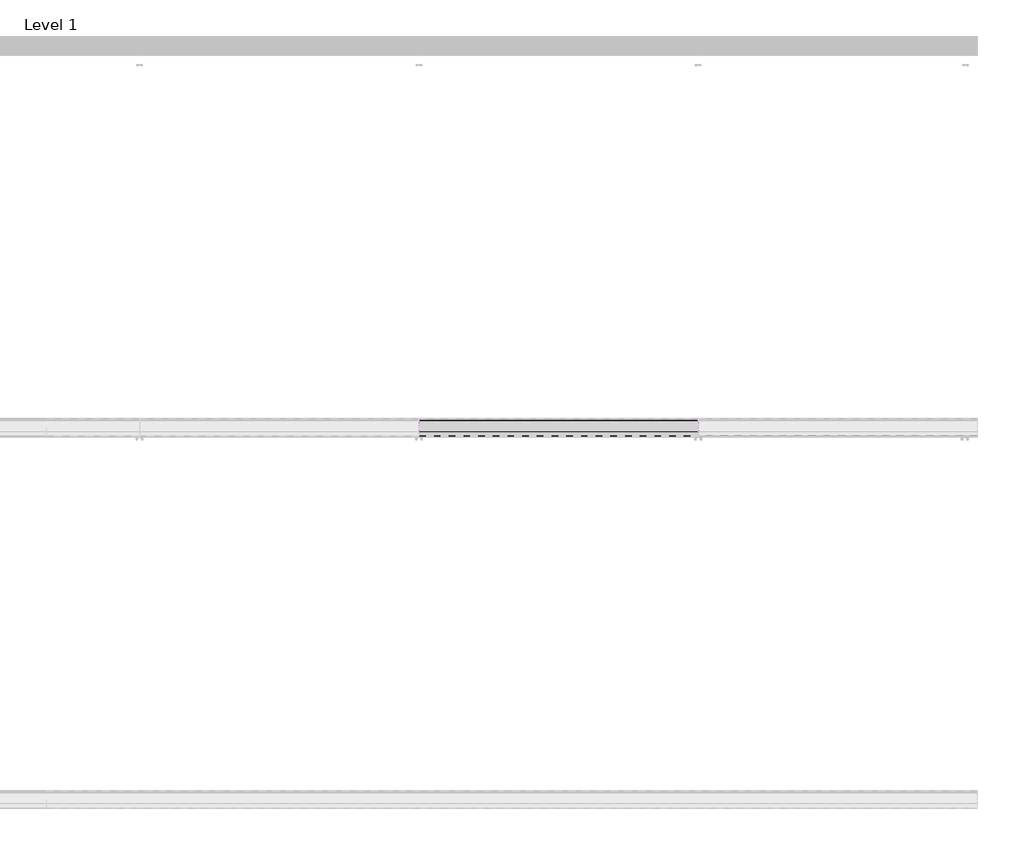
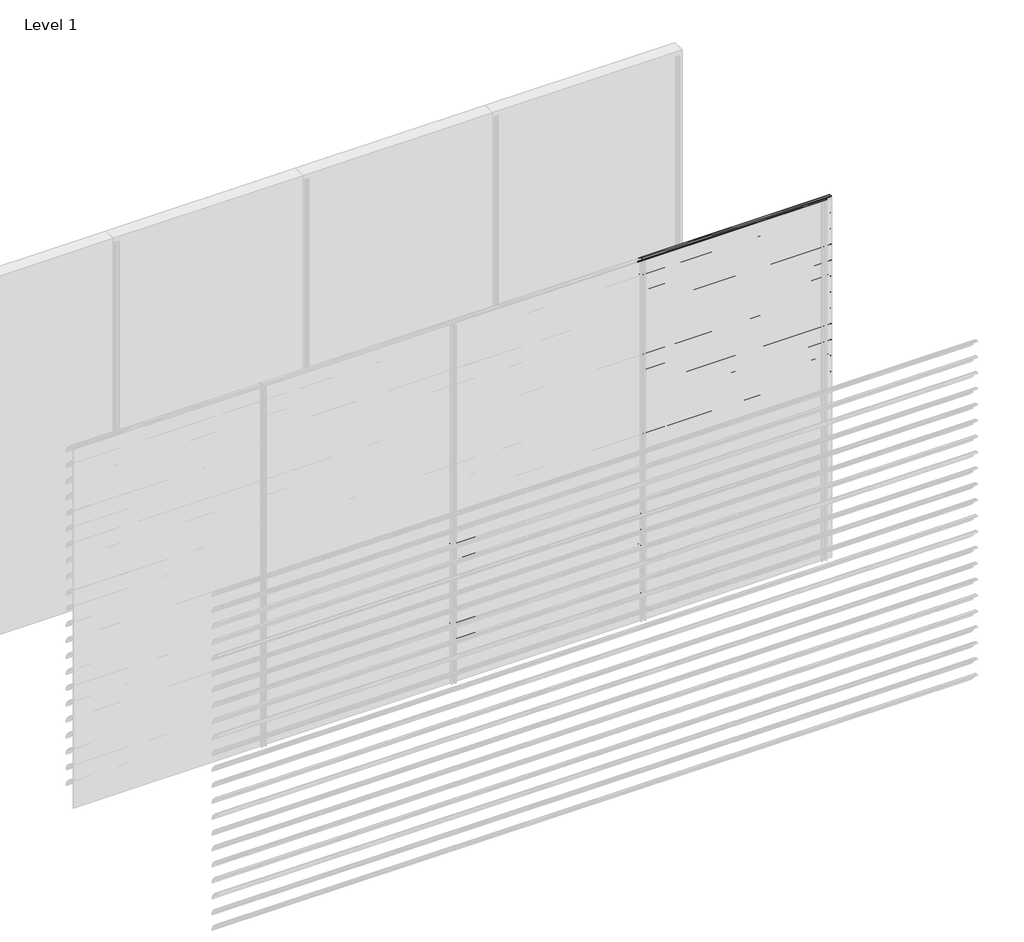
# One storey, part 51 of 57: 20 proxies.
"""IFC4 building model written with IfcOpenShell, lengths in millimetres."""

from ifc_helpers import new_model, si_unit, point, frame, frame_2d, origin, place, context, project, spatial, polyline, circle_curve, trimmed, segment, composite_curve, outline, extrude, element, save

model = new_model("IFC4")

# Units and contexts
model_context = context("Model", 3, world=origin())
ifc_project = project(units=[si_unit("LENGTHUNIT", "METRE", prefix="MILLI")], contexts=[model_context])

# Site, building, storey
site = spatial("IfcSite", under=ifc_project)
building = spatial("IfcBuilding", under=site)
storey = spatial("IfcBuildingStorey", under=building, Name="Level 1", Elevation=0.0)

# Proxies
placement = place(None, origin())
element("IfcBuildingElementProxy", 1, Name="Wall Sweeps", at=placement, inside=storey, context=model_context, shape_type="SweptSolid", body=[
    extrude(outline(composite_curve([segment(trimmed(circle_curve(frame_2d((-5993.7822526, 1154.4913792)), 4.2177474), [point((-5989.6985606, 1155.5462976))], [point((-5993.7822526, 1158.7091266))], False, "CARTESIAN"), True, "CONTINUOUS"), segment(trimmed(circle_curve(frame_2d((-6018.7150834, 1056.2536312)), 105.4456002), [point((-5993.7822526, 1158.7091266))], [point((-5971.7914298, 1150.6832099))], False, "CARTESIAN"), True, "CONTINUOUS"), segment(trimmed(circle_curve(frame_2d((-6061.7199745, 1002.0352476)), 173.7335887), [point((-5971.7914298, 1150.6832099))], [point((-5913.0720121, 1091.9637922))], False, "CARTESIAN"), True, "CONTINUOUS"), segment(trimmed(circle_curve(frame_2d((-6004.9297178, 1040.1860314)), 105.4456002), [point((-5913.0720121, 1091.9637922))], [point((-5903.6249616, 1069.4455765))], False, "CARTESIAN"), True, "CONTINUOUS"), segment(trimmed(circle_curve(frame_2d((-5907.809737, 1068.3307305)), 4.3307305), [point((-5903.6249616, 1069.4455765))], [point((-5909.0769196, 1064.189538))], False, "CARTESIAN"), True, "CONTINUOUS"), segment(polyline([(-5909.0769196, 1064.189538), (-5934.7401984, 1088.9722783)]), True, "CONTINUOUS"), segment(trimmed(circle_curve(frame_2d((-5931.3879574, 1091.2977626)), 4.079877), [point((-5934.7401984, 1088.9722783))], [point((-5930.7310597, 1095.3244091))], False, "CARTESIAN"), True, "CONTINUOUS"), segment(trimmed(circle_curve(frame_2d((-6014.6665585, 1073.2544323)), 86.7885467), [point((-5930.7310597, 1095.3244091))], [point((-5942.3028351, 1121.1683485))], True, "CARTESIAN"), True, "CONTINUOUS"), segment(polyline([(-5942.3028351, 1121.1683485), (-5940.7230099, 1123.9046861)]), True, "CONTINUOUS"), segment(trimmed(circle_curve(frame_2d((-6061.7199745, 1002.0352476)), 171.7335887), [point((-5940.7230099, 1123.9046861))], [point((-5972.7555872, 1148.9289618))], True, "CARTESIAN"), True, "CONTINUOUS"), segment(trimmed(circle_curve(frame_2d((-6018.7150834, 1056.2536312)), 103.4456002), [point((-5972.7555872, 1148.9289618))], [point((-5989.6985606, 1155.5462976))], True, "CARTESIAN"), True, "CONTINUOUS")], self_intersect=False)), frame((3000.0, 0.0, 0.0), z_axis=(1.0, 0.0, 0.0), x_axis=(0.0, 1.0, 0.0)), (0.0, 0.0, 1.0), 1500.0),
])
element("IfcBuildingElementProxy", 2, Name="Wall Sweeps", at=placement, inside=storey, context=model_context, shape_type="SweptSolid", body=[
    extrude(outline(composite_curve([segment(trimmed(circle_curve(frame_2d((-5993.7822526, 1021.4913792)), 4.2177474), [point((-5989.6985606, 1022.5462976))], [point((-5993.7822526, 1025.7091266))], False, "CARTESIAN"), True, "CONTINUOUS"), segment(trimmed(circle_curve(frame_2d((-6018.7150834, 923.2536312)), 105.4456002), [point((-5993.7822526, 1025.7091266))], [point((-5971.7914298, 1017.6832099))], False, "CARTESIAN"), True, "CONTINUOUS"), segment(trimmed(circle_curve(frame_2d((-6061.7199745, 869.0352476)), 173.7335887), [point((-5971.7914298, 1017.6832099))], [point((-5913.0720121, 958.9637922))], False, "CARTESIAN"), True, "CONTINUOUS"), segment(trimmed(circle_curve(frame_2d((-6004.9297178, 907.1860314)), 105.4456002), [point((-5913.0720121, 958.9637922))], [point((-5903.6249616, 936.4455765))], False, "CARTESIAN"), True, "CONTINUOUS"), segment(trimmed(circle_curve(frame_2d((-5907.809737, 935.3307305)), 4.3307305), [point((-5903.6249616, 936.4455765))], [point((-5909.0769196, 931.189538))], False, "CARTESIAN"), True, "CONTINUOUS"), segment(polyline([(-5909.0769196, 931.189538), (-5934.7401984, 955.9722783)]), True, "CONTINUOUS"), segment(trimmed(circle_curve(frame_2d((-5931.3879574, 958.2977626)), 4.079877), [point((-5934.7401984, 955.9722783))], [point((-5930.7310597, 962.3244091))], False, "CARTESIAN"), True, "CONTINUOUS"), segment(trimmed(circle_curve(frame_2d((-6014.6665585, 940.2544323)), 86.7885467), [point((-5930.7310597, 962.3244091))], [point((-5942.3028351, 988.1683485))], True, "CARTESIAN"), True, "CONTINUOUS"), segment(polyline([(-5942.3028351, 988.1683485), (-5940.7230099, 990.9046861)]), True, "CONTINUOUS"), segment(trimmed(circle_curve(frame_2d((-6061.7199745, 869.0352476)), 171.7335887), [point((-5940.7230099, 990.9046861))], [point((-5972.7555872, 1015.9289618))], True, "CARTESIAN"), True, "CONTINUOUS"), segment(trimmed(circle_curve(frame_2d((-6018.7150834, 923.2536312)), 103.4456002), [point((-5972.7555872, 1015.9289618))], [point((-5989.6985606, 1022.5462976))], True, "CARTESIAN"), True, "CONTINUOUS")], self_intersect=False)), frame((3000.0, 0.0, 0.0), z_axis=(1.0, 0.0, 0.0), x_axis=(0.0, 1.0, 0.0)), (0.0, 0.0, 1.0), 1500.0),
])
element("IfcBuildingElementProxy", 3, Name="Wall Sweeps", at=placement, inside=storey, context=model_context, shape_type="SweptSolid", body=[
    extrude(outline(composite_curve([segment(trimmed(circle_curve(frame_2d((-5993.7822526, 888.4913792)), 4.2177474), [point((-5989.6985606, 889.5462976))], [point((-5993.7822526, 892.7091266))], False, "CARTESIAN"), True, "CONTINUOUS"), segment(trimmed(circle_curve(frame_2d((-6018.7150834, 790.2536312)), 105.4456002), [point((-5993.7822526, 892.7091266))], [point((-5971.7914298, 884.6832099))], False, "CARTESIAN"), True, "CONTINUOUS"), segment(trimmed(circle_curve(frame_2d((-6061.7199745, 736.0352476)), 173.7335887), [point((-5971.7914298, 884.6832099))], [point((-5913.0720121, 825.9637922))], False, "CARTESIAN"), True, "CONTINUOUS"), segment(trimmed(circle_curve(frame_2d((-6004.9297178, 774.1860314)), 105.4456002), [point((-5913.0720121, 825.9637922))], [point((-5903.6249616, 803.4455765))], False, "CARTESIAN"), True, "CONTINUOUS"), segment(trimmed(circle_curve(frame_2d((-5907.809737, 802.3307305)), 4.3307305), [point((-5903.6249616, 803.4455765))], [point((-5909.0769196, 798.189538))], False, "CARTESIAN"), True, "CONTINUOUS"), segment(polyline([(-5909.0769196, 798.189538), (-5934.7401984, 822.9722783)]), True, "CONTINUOUS"), segment(trimmed(circle_curve(frame_2d((-5931.3879574, 825.2977626)), 4.079877), [point((-5934.7401984, 822.9722783))], [point((-5930.7310597, 829.3244091))], False, "CARTESIAN"), True, "CONTINUOUS"), segment(trimmed(circle_curve(frame_2d((-6014.6665585, 807.2544323)), 86.7885467), [point((-5930.7310597, 829.3244091))], [point((-5942.3028351, 855.1683485))], True, "CARTESIAN"), True, "CONTINUOUS"), segment(polyline([(-5942.3028351, 855.1683485), (-5940.7230099, 857.9046861)]), True, "CONTINUOUS"), segment(trimmed(circle_curve(frame_2d((-6061.7199745, 736.0352476)), 171.7335887), [point((-5940.7230099, 857.9046861))], [point((-5972.7555872, 882.9289618))], True, "CARTESIAN"), True, "CONTINUOUS"), segment(trimmed(circle_curve(frame_2d((-6018.7150834, 790.2536312)), 103.4456002), [point((-5972.7555872, 882.9289618))], [point((-5989.6985606, 889.5462976))], True, "CARTESIAN"), True, "CONTINUOUS")], self_intersect=False)), frame((3000.0, 0.0, 0.0), z_axis=(1.0, 0.0, 0.0), x_axis=(0.0, 1.0, 0.0)), (0.0, 0.0, 1.0), 1500.0),
])
element("IfcBuildingElementProxy", 4, Name="Wall Sweeps", at=placement, inside=storey, context=model_context, shape_type="SweptSolid", body=[
    extrude(outline(composite_curve([segment(trimmed(circle_curve(frame_2d((-5993.7822526, 755.4913792)), 4.2177474), [point((-5989.6985606, 756.5462976))], [point((-5993.7822526, 759.7091266))], False, "CARTESIAN"), True, "CONTINUOUS"), segment(trimmed(circle_curve(frame_2d((-6018.7150834, 657.2536312)), 105.4456002), [point((-5993.7822526, 759.7091266))], [point((-5971.7914298, 751.6832099))], False, "CARTESIAN"), True, "CONTINUOUS"), segment(trimmed(circle_curve(frame_2d((-6061.7199745, 603.0352476)), 173.7335887), [point((-5971.7914298, 751.6832099))], [point((-5913.0720121, 692.9637922))], False, "CARTESIAN"), True, "CONTINUOUS"), segment(trimmed(circle_curve(frame_2d((-6004.9297178, 641.1860314)), 105.4456002), [point((-5913.0720121, 692.9637922))], [point((-5903.6249616, 670.4455765))], False, "CARTESIAN"), True, "CONTINUOUS"), segment(trimmed(circle_curve(frame_2d((-5907.809737, 669.3307305)), 4.3307305), [point((-5903.6249616, 670.4455765))], [point((-5909.0769196, 665.189538))], False, "CARTESIAN"), True, "CONTINUOUS"), segment(polyline([(-5909.0769196, 665.189538), (-5934.7401984, 689.9722783)]), True, "CONTINUOUS"), segment(trimmed(circle_curve(frame_2d((-5931.3879574, 692.2977626)), 4.079877), [point((-5934.7401984, 689.9722783))], [point((-5930.7310597, 696.3244091))], False, "CARTESIAN"), True, "CONTINUOUS"), segment(trimmed(circle_curve(frame_2d((-6014.6665585, 674.2544323)), 86.7885467), [point((-5930.7310597, 696.3244091))], [point((-5942.3028351, 722.1683485))], True, "CARTESIAN"), True, "CONTINUOUS"), segment(polyline([(-5942.3028351, 722.1683485), (-5940.7230099, 724.9046861)]), True, "CONTINUOUS"), segment(trimmed(circle_curve(frame_2d((-6061.7199745, 603.0352476)), 171.7335887), [point((-5940.7230099, 724.9046861))], [point((-5972.7555872, 749.9289618))], True, "CARTESIAN"), True, "CONTINUOUS"), segment(trimmed(circle_curve(frame_2d((-6018.7150834, 657.2536312)), 103.4456002), [point((-5972.7555872, 749.9289618))], [point((-5989.6985606, 756.5462976))], True, "CARTESIAN"), True, "CONTINUOUS")], self_intersect=False)), frame((3000.0, 0.0, 0.0), z_axis=(1.0, 0.0, 0.0), x_axis=(0.0, 1.0, 0.0)), (0.0, 0.0, 1.0), 1500.0),
])
element("IfcBuildingElementProxy", 5, Name="Wall Sweeps", at=placement, inside=storey, context=model_context, shape_type="SweptSolid", body=[
    extrude(outline(composite_curve([segment(trimmed(circle_curve(frame_2d((-5993.7822526, 622.4913792)), 4.2177474), [point((-5989.6985606, 623.5462976))], [point((-5993.7822526, 626.7091266))], False, "CARTESIAN"), True, "CONTINUOUS"), segment(trimmed(circle_curve(frame_2d((-6018.7150834, 524.2536312)), 105.4456002), [point((-5993.7822526, 626.7091266))], [point((-5971.7914298, 618.6832099))], False, "CARTESIAN"), True, "CONTINUOUS"), segment(trimmed(circle_curve(frame_2d((-6061.7199745, 470.0352476)), 173.7335887), [point((-5971.7914298, 618.6832099))], [point((-5913.0720121, 559.9637922))], False, "CARTESIAN"), True, "CONTINUOUS"), segment(trimmed(circle_curve(frame_2d((-6004.9297178, 508.1860314)), 105.4456002), [point((-5913.0720121, 559.9637922))], [point((-5903.6249616, 537.4455765))], False, "CARTESIAN"), True, "CONTINUOUS"), segment(trimmed(circle_curve(frame_2d((-5907.809737, 536.3307305)), 4.3307305), [point((-5903.6249616, 537.4455765))], [point((-5909.0769196, 532.189538))], False, "CARTESIAN"), True, "CONTINUOUS"), segment(polyline([(-5909.0769196, 532.189538), (-5934.7401984, 556.9722783)]), True, "CONTINUOUS"), segment(trimmed(circle_curve(frame_2d((-5931.3879574, 559.2977626)), 4.079877), [point((-5934.7401984, 556.9722783))], [point((-5930.7310597, 563.3244091))], False, "CARTESIAN"), True, "CONTINUOUS"), segment(trimmed(circle_curve(frame_2d((-6014.6665585, 541.2544323)), 86.7885467), [point((-5930.7310597, 563.3244091))], [point((-5942.3028351, 589.1683485))], True, "CARTESIAN"), True, "CONTINUOUS"), segment(polyline([(-5942.3028351, 589.1683485), (-5940.7230099, 591.9046861)]), True, "CONTINUOUS"), segment(trimmed(circle_curve(frame_2d((-6061.7199745, 470.0352476)), 171.7335887), [point((-5940.7230099, 591.9046861))], [point((-5972.7555872, 616.9289618))], True, "CARTESIAN"), True, "CONTINUOUS"), segment(trimmed(circle_curve(frame_2d((-6018.7150834, 524.2536312)), 103.4456002), [point((-5972.7555872, 616.9289618))], [point((-5989.6985606, 623.5462976))], True, "CARTESIAN"), True, "CONTINUOUS")], self_intersect=False)), frame((3000.0, 0.0, 0.0), z_axis=(1.0, 0.0, 0.0), x_axis=(0.0, 1.0, 0.0)), (0.0, 0.0, 1.0), 1500.0),
])
element("IfcBuildingElementProxy", 6, Name="Wall Sweeps", at=placement, inside=storey, context=model_context, shape_type="SweptSolid", body=[
    extrude(outline(composite_curve([segment(trimmed(circle_curve(frame_2d((-5993.7822526, 489.4913792)), 4.2177474), [point((-5989.6985606, 490.5462976))], [point((-5993.7822526, 493.7091266))], False, "CARTESIAN"), True, "CONTINUOUS"), segment(trimmed(circle_curve(frame_2d((-6018.7150834, 391.2536312)), 105.4456002), [point((-5993.7822526, 493.7091266))], [point((-5971.7914298, 485.6832099))], False, "CARTESIAN"), True, "CONTINUOUS"), segment(trimmed(circle_curve(frame_2d((-6061.7199745, 337.0352476)), 173.7335887), [point((-5971.7914298, 485.6832099))], [point((-5913.0720121, 426.9637922))], False, "CARTESIAN"), True, "CONTINUOUS"), segment(trimmed(circle_curve(frame_2d((-6004.9297178, 375.1860314)), 105.4456002), [point((-5913.0720121, 426.9637922))], [point((-5903.6249616, 404.4455765))], False, "CARTESIAN"), True, "CONTINUOUS"), segment(trimmed(circle_curve(frame_2d((-5907.809737, 403.3307305)), 4.3307305), [point((-5903.6249616, 404.4455765))], [point((-5909.0769196, 399.189538))], False, "CARTESIAN"), True, "CONTINUOUS"), segment(polyline([(-5909.0769196, 399.189538), (-5934.7401984, 423.9722783)]), True, "CONTINUOUS"), segment(trimmed(circle_curve(frame_2d((-5931.3879574, 426.2977626)), 4.079877), [point((-5934.7401984, 423.9722783))], [point((-5930.7310597, 430.3244091))], False, "CARTESIAN"), True, "CONTINUOUS"), segment(trimmed(circle_curve(frame_2d((-6014.6665585, 408.2544323)), 86.7885467), [point((-5930.7310597, 430.3244091))], [point((-5942.3028351, 456.1683485))], True, "CARTESIAN"), True, "CONTINUOUS"), segment(polyline([(-5942.3028351, 456.1683485), (-5940.7230099, 458.9046861)]), True, "CONTINUOUS"), segment(trimmed(circle_curve(frame_2d((-6061.7199745, 337.0352476)), 171.7335887), [point((-5940.7230099, 458.9046861))], [point((-5972.7555872, 483.9289618))], True, "CARTESIAN"), True, "CONTINUOUS"), segment(trimmed(circle_curve(frame_2d((-6018.7150834, 391.2536312)), 103.4456002), [point((-5972.7555872, 483.9289618))], [point((-5989.6985606, 490.5462976))], True, "CARTESIAN"), True, "CONTINUOUS")], self_intersect=False)), frame((3000.0, 0.0, 0.0), z_axis=(1.0, 0.0, 0.0), x_axis=(0.0, 1.0, 0.0)), (0.0, 0.0, 1.0), 1500.0),
])
element("IfcBuildingElementProxy", 7, Name="Wall Sweeps", at=placement, inside=storey, context=model_context, shape_type="SweptSolid", body=[
    extrude(outline(composite_curve([segment(trimmed(circle_curve(frame_2d((-5993.7822526, 356.4913792)), 4.2177474), [point((-5989.6985606, 357.5462976))], [point((-5993.7822526, 360.7091266))], False, "CARTESIAN"), True, "CONTINUOUS"), segment(trimmed(circle_curve(frame_2d((-6018.7150834, 258.2536312)), 105.4456002), [point((-5993.7822526, 360.7091266))], [point((-5971.7914298, 352.6832099))], False, "CARTESIAN"), True, "CONTINUOUS"), segment(trimmed(circle_curve(frame_2d((-6061.7199745, 204.0352476)), 173.7335887), [point((-5971.7914298, 352.6832099))], [point((-5913.0720121, 293.9637922))], False, "CARTESIAN"), True, "CONTINUOUS"), segment(trimmed(circle_curve(frame_2d((-6004.9297178, 242.1860314)), 105.4456002), [point((-5913.0720121, 293.9637922))], [point((-5903.6249616, 271.4455765))], False, "CARTESIAN"), True, "CONTINUOUS"), segment(trimmed(circle_curve(frame_2d((-5907.809737, 270.3307305)), 4.3307305), [point((-5903.6249616, 271.4455765))], [point((-5909.0769196, 266.189538))], False, "CARTESIAN"), True, "CONTINUOUS"), segment(polyline([(-5909.0769196, 266.189538), (-5934.7401984, 290.9722783)]), True, "CONTINUOUS"), segment(trimmed(circle_curve(frame_2d((-5931.3879574, 293.2977626)), 4.079877), [point((-5934.7401984, 290.9722783))], [point((-5930.7310597, 297.3244091))], False, "CARTESIAN"), True, "CONTINUOUS"), segment(trimmed(circle_curve(frame_2d((-6014.6665585, 275.2544323)), 86.7885467), [point((-5930.7310597, 297.3244091))], [point((-5942.3028351, 323.1683485))], True, "CARTESIAN"), True, "CONTINUOUS"), segment(polyline([(-5942.3028351, 323.1683485), (-5940.7230099, 325.9046861)]), True, "CONTINUOUS"), segment(trimmed(circle_curve(frame_2d((-6061.7199745, 204.0352476)), 171.7335887), [point((-5940.7230099, 325.9046861))], [point((-5972.7555872, 350.9289618))], True, "CARTESIAN"), True, "CONTINUOUS"), segment(trimmed(circle_curve(frame_2d((-6018.7150834, 258.2536312)), 103.4456002), [point((-5972.7555872, 350.9289618))], [point((-5989.6985606, 357.5462976))], True, "CARTESIAN"), True, "CONTINUOUS")], self_intersect=False)), frame((3000.0, 0.0, 0.0), z_axis=(1.0, 0.0, 0.0), x_axis=(0.0, 1.0, 0.0)), (0.0, 0.0, 1.0), 1500.0),
])
element("IfcBuildingElementProxy", 8, Name="Wall Sweeps", at=placement, inside=storey, context=model_context, shape_type="SweptSolid", body=[
    extrude(outline(composite_curve([segment(trimmed(circle_curve(frame_2d((-5993.7822526, 223.4913792)), 4.2177474), [point((-5989.6985606, 224.5462976))], [point((-5993.7822526, 227.7091266))], False, "CARTESIAN"), True, "CONTINUOUS"), segment(trimmed(circle_curve(frame_2d((-6018.7150834, 125.2536312)), 105.4456002), [point((-5993.7822526, 227.7091266))], [point((-5971.7914298, 219.6832099))], False, "CARTESIAN"), True, "CONTINUOUS"), segment(trimmed(circle_curve(frame_2d((-6061.7199745, 71.0352476)), 173.7335887), [point((-5971.7914298, 219.6832099))], [point((-5913.0720121, 160.9637922))], False, "CARTESIAN"), True, "CONTINUOUS"), segment(trimmed(circle_curve(frame_2d((-6004.9297178, 109.1860314)), 105.4456002), [point((-5913.0720121, 160.9637922))], [point((-5903.6249616, 138.4455765))], False, "CARTESIAN"), True, "CONTINUOUS"), segment(trimmed(circle_curve(frame_2d((-5907.809737, 137.3307305)), 4.3307305), [point((-5903.6249616, 138.4455765))], [point((-5909.0769196, 133.189538))], False, "CARTESIAN"), True, "CONTINUOUS"), segment(polyline([(-5909.0769196, 133.189538), (-5934.7401984, 157.9722783)]), True, "CONTINUOUS"), segment(trimmed(circle_curve(frame_2d((-5931.3879574, 160.2977626)), 4.079877), [point((-5934.7401984, 157.9722783))], [point((-5930.7310597, 164.3244091))], False, "CARTESIAN"), True, "CONTINUOUS"), segment(trimmed(circle_curve(frame_2d((-6014.6665585, 142.2544323)), 86.7885467), [point((-5930.7310597, 164.3244091))], [point((-5942.3028351, 190.1683485))], True, "CARTESIAN"), True, "CONTINUOUS"), segment(polyline([(-5942.3028351, 190.1683485), (-5940.7230099, 192.9046861)]), True, "CONTINUOUS"), segment(trimmed(circle_curve(frame_2d((-6061.7199745, 71.0352476)), 171.7335887), [point((-5940.7230099, 192.9046861))], [point((-5972.7555872, 217.9289618))], True, "CARTESIAN"), True, "CONTINUOUS"), segment(trimmed(circle_curve(frame_2d((-6018.7150834, 125.2536312)), 103.4456002), [point((-5972.7555872, 217.9289618))], [point((-5989.6985606, 224.5462976))], True, "CARTESIAN"), True, "CONTINUOUS")], self_intersect=False)), frame((3000.0, 0.0, 0.0), z_axis=(1.0, 0.0, 0.0), x_axis=(0.0, 1.0, 0.0)), (0.0, 0.0, 1.0), 1500.0),
])
element("IfcBuildingElementProxy", 9, Name="Wall Sweeps", at=placement, inside=storey, context=model_context, shape_type="SweptSolid", body=[
    extrude(outline(composite_curve([segment(trimmed(circle_curve(frame_2d((-5993.7822526, 3016.4913792)), 4.2177474), [point((-5989.6985606, 3017.5462976))], [point((-5993.7822526, 3020.7091266))], False, "CARTESIAN"), True, "CONTINUOUS"), segment(trimmed(circle_curve(frame_2d((-6018.7150834, 2918.2536312)), 105.4456002), [point((-5993.7822526, 3020.7091266))], [point((-5971.7914298, 3012.6832099))], False, "CARTESIAN"), True, "CONTINUOUS"), segment(trimmed(circle_curve(frame_2d((-6061.7199745, 2864.0352476)), 173.7335887), [point((-5971.7914298, 3012.6832099))], [point((-5913.0720121, 2953.9637922))], False, "CARTESIAN"), True, "CONTINUOUS"), segment(trimmed(circle_curve(frame_2d((-6004.9297178, 2902.1860314)), 105.4456002), [point((-5913.0720121, 2953.9637922))], [point((-5903.6249616, 2931.4455765))], False, "CARTESIAN"), True, "CONTINUOUS"), segment(trimmed(circle_curve(frame_2d((-5907.809737, 2930.3307305)), 4.3307305), [point((-5903.6249616, 2931.4455765))], [point((-5909.0769196, 2926.189538))], False, "CARTESIAN"), True, "CONTINUOUS"), segment(polyline([(-5909.0769196, 2926.189538), (-5934.7401984, 2950.9722783)]), True, "CONTINUOUS"), segment(trimmed(circle_curve(frame_2d((-5931.3879574, 2953.2977626)), 4.079877), [point((-5934.7401984, 2950.9722783))], [point((-5930.7310597, 2957.3244091))], False, "CARTESIAN"), True, "CONTINUOUS"), segment(trimmed(circle_curve(frame_2d((-6014.6665585, 2935.2544323)), 86.7885467), [point((-5930.7310597, 2957.3244091))], [point((-5942.3028351, 2983.1683485))], True, "CARTESIAN"), True, "CONTINUOUS"), segment(polyline([(-5942.3028351, 2983.1683485), (-5940.7230099, 2985.9046861)]), True, "CONTINUOUS"), segment(trimmed(circle_curve(frame_2d((-6061.7199745, 2864.0352476)), 171.7335887), [point((-5940.7230099, 2985.9046861))], [point((-5972.7555872, 3010.9289618))], True, "CARTESIAN"), True, "CONTINUOUS"), segment(trimmed(circle_curve(frame_2d((-6018.7150834, 2918.2536312)), 103.4456002), [point((-5972.7555872, 3010.9289618))], [point((-5989.6985606, 3017.5462976))], True, "CARTESIAN"), True, "CONTINUOUS")], self_intersect=False)), frame((4500.0, 0.0, 0.0), z_axis=(1.0, 0.0, 0.0), x_axis=(0.0, 1.0, 0.0)), (0.0, 0.0, 1.0), 1500.0),
])
element("IfcBuildingElementProxy", 10, Name="Wall Sweeps", at=placement, inside=storey, context=model_context, shape_type="SweptSolid", body=[
    extrude(outline(composite_curve([segment(trimmed(circle_curve(frame_2d((-5993.7822526, 2883.4913792)), 4.2177474), [point((-5989.6985606, 2884.5462976))], [point((-5993.7822526, 2887.7091266))], False, "CARTESIAN"), True, "CONTINUOUS"), segment(trimmed(circle_curve(frame_2d((-6018.7150834, 2785.2536312)), 105.4456002), [point((-5993.7822526, 2887.7091266))], [point((-5971.7914298, 2879.6832099))], False, "CARTESIAN"), True, "CONTINUOUS"), segment(trimmed(circle_curve(frame_2d((-6061.7199745, 2731.0352476)), 173.7335887), [point((-5971.7914298, 2879.6832099))], [point((-5913.0720121, 2820.9637922))], False, "CARTESIAN"), True, "CONTINUOUS"), segment(trimmed(circle_curve(frame_2d((-6004.9297178, 2769.1860314)), 105.4456002), [point((-5913.0720121, 2820.9637922))], [point((-5903.6249616, 2798.4455765))], False, "CARTESIAN"), True, "CONTINUOUS"), segment(trimmed(circle_curve(frame_2d((-5907.809737, 2797.3307305)), 4.3307305), [point((-5903.6249616, 2798.4455765))], [point((-5909.0769196, 2793.189538))], False, "CARTESIAN"), True, "CONTINUOUS"), segment(polyline([(-5909.0769196, 2793.189538), (-5934.7401984, 2817.9722783)]), True, "CONTINUOUS"), segment(trimmed(circle_curve(frame_2d((-5931.3879574, 2820.2977626)), 4.079877), [point((-5934.7401984, 2817.9722783))], [point((-5930.7310597, 2824.3244091))], False, "CARTESIAN"), True, "CONTINUOUS"), segment(trimmed(circle_curve(frame_2d((-6014.6665585, 2802.2544323)), 86.7885467), [point((-5930.7310597, 2824.3244091))], [point((-5942.3028351, 2850.1683485))], True, "CARTESIAN"), True, "CONTINUOUS"), segment(polyline([(-5942.3028351, 2850.1683485), (-5940.7230099, 2852.9046861)]), True, "CONTINUOUS"), segment(trimmed(circle_curve(frame_2d((-6061.7199745, 2731.0352476)), 171.7335887), [point((-5940.7230099, 2852.9046861))], [point((-5972.7555872, 2877.9289618))], True, "CARTESIAN"), True, "CONTINUOUS"), segment(trimmed(circle_curve(frame_2d((-6018.7150834, 2785.2536312)), 103.4456002), [point((-5972.7555872, 2877.9289618))], [point((-5989.6985606, 2884.5462976))], True, "CARTESIAN"), True, "CONTINUOUS")], self_intersect=False)), frame((4500.0, 0.0, 0.0), z_axis=(1.0, 0.0, 0.0), x_axis=(0.0, 1.0, 0.0)), (0.0, 0.0, 1.0), 1500.0),
])
element("IfcBuildingElementProxy", 11, Name="Wall Sweeps", at=placement, inside=storey, context=model_context, shape_type="SweptSolid", body=[
    extrude(outline(composite_curve([segment(trimmed(circle_curve(frame_2d((-5993.7822526, 2750.4913792)), 4.2177474), [point((-5989.6985606, 2751.5462976))], [point((-5993.7822526, 2754.7091266))], False, "CARTESIAN"), True, "CONTINUOUS"), segment(trimmed(circle_curve(frame_2d((-6018.7150834, 2652.2536312)), 105.4456002), [point((-5993.7822526, 2754.7091266))], [point((-5971.7914298, 2746.6832099))], False, "CARTESIAN"), True, "CONTINUOUS"), segment(trimmed(circle_curve(frame_2d((-6061.7199745, 2598.0352476)), 173.7335887), [point((-5971.7914298, 2746.6832099))], [point((-5913.0720121, 2687.9637922))], False, "CARTESIAN"), True, "CONTINUOUS"), segment(trimmed(circle_curve(frame_2d((-6004.9297178, 2636.1860314)), 105.4456002), [point((-5913.0720121, 2687.9637922))], [point((-5903.6249616, 2665.4455765))], False, "CARTESIAN"), True, "CONTINUOUS"), segment(trimmed(circle_curve(frame_2d((-5907.809737, 2664.3307305)), 4.3307305), [point((-5903.6249616, 2665.4455765))], [point((-5909.0769196, 2660.189538))], False, "CARTESIAN"), True, "CONTINUOUS"), segment(polyline([(-5909.0769196, 2660.189538), (-5934.7401984, 2684.9722783)]), True, "CONTINUOUS"), segment(trimmed(circle_curve(frame_2d((-5931.3879574, 2687.2977626)), 4.079877), [point((-5934.7401984, 2684.9722783))], [point((-5930.7310597, 2691.3244091))], False, "CARTESIAN"), True, "CONTINUOUS"), segment(trimmed(circle_curve(frame_2d((-6014.6665585, 2669.2544323)), 86.7885467), [point((-5930.7310597, 2691.3244091))], [point((-5942.3028351, 2717.1683485))], True, "CARTESIAN"), True, "CONTINUOUS"), segment(polyline([(-5942.3028351, 2717.1683485), (-5940.7230099, 2719.9046861)]), True, "CONTINUOUS"), segment(trimmed(circle_curve(frame_2d((-6061.7199745, 2598.0352476)), 171.7335887), [point((-5940.7230099, 2719.9046861))], [point((-5972.7555872, 2744.9289618))], True, "CARTESIAN"), True, "CONTINUOUS"), segment(trimmed(circle_curve(frame_2d((-6018.7150834, 2652.2536312)), 103.4456002), [point((-5972.7555872, 2744.9289618))], [point((-5989.6985606, 2751.5462976))], True, "CARTESIAN"), True, "CONTINUOUS")], self_intersect=False)), frame((4500.0, 0.0, 0.0), z_axis=(1.0, 0.0, 0.0), x_axis=(0.0, 1.0, 0.0)), (0.0, 0.0, 1.0), 1500.0),
])
element("IfcBuildingElementProxy", 12, Name="Wall Sweeps", at=placement, inside=storey, context=model_context, shape_type="SweptSolid", body=[
    extrude(outline(composite_curve([segment(trimmed(circle_curve(frame_2d((-5993.7822526, 2617.4913792)), 4.2177474), [point((-5989.6985606, 2618.5462976))], [point((-5993.7822526, 2621.7091266))], False, "CARTESIAN"), True, "CONTINUOUS"), segment(trimmed(circle_curve(frame_2d((-6018.7150834, 2519.2536312)), 105.4456002), [point((-5993.7822526, 2621.7091266))], [point((-5971.7914298, 2613.6832099))], False, "CARTESIAN"), True, "CONTINUOUS"), segment(trimmed(circle_curve(frame_2d((-6061.7199745, 2465.0352476)), 173.7335887), [point((-5971.7914298, 2613.6832099))], [point((-5913.0720121, 2554.9637922))], False, "CARTESIAN"), True, "CONTINUOUS"), segment(trimmed(circle_curve(frame_2d((-6004.9297178, 2503.1860314)), 105.4456002), [point((-5913.0720121, 2554.9637922))], [point((-5903.6249616, 2532.4455765))], False, "CARTESIAN"), True, "CONTINUOUS"), segment(trimmed(circle_curve(frame_2d((-5907.809737, 2531.3307305)), 4.3307305), [point((-5903.6249616, 2532.4455765))], [point((-5909.0769196, 2527.189538))], False, "CARTESIAN"), True, "CONTINUOUS"), segment(polyline([(-5909.0769196, 2527.189538), (-5934.7401984, 2551.9722783)]), True, "CONTINUOUS"), segment(trimmed(circle_curve(frame_2d((-5931.3879574, 2554.2977626)), 4.079877), [point((-5934.7401984, 2551.9722783))], [point((-5930.7310597, 2558.3244091))], False, "CARTESIAN"), True, "CONTINUOUS"), segment(trimmed(circle_curve(frame_2d((-6014.6665585, 2536.2544323)), 86.7885467), [point((-5930.7310597, 2558.3244091))], [point((-5942.3028351, 2584.1683485))], True, "CARTESIAN"), True, "CONTINUOUS"), segment(polyline([(-5942.3028351, 2584.1683485), (-5940.7230099, 2586.9046861)]), True, "CONTINUOUS"), segment(trimmed(circle_curve(frame_2d((-6061.7199745, 2465.0352476)), 171.7335887), [point((-5940.7230099, 2586.9046861))], [point((-5972.7555872, 2611.9289618))], True, "CARTESIAN"), True, "CONTINUOUS"), segment(trimmed(circle_curve(frame_2d((-6018.7150834, 2519.2536312)), 103.4456002), [point((-5972.7555872, 2611.9289618))], [point((-5989.6985606, 2618.5462976))], True, "CARTESIAN"), True, "CONTINUOUS")], self_intersect=False)), frame((4500.0, 0.0, 0.0), z_axis=(1.0, 0.0, 0.0), x_axis=(0.0, 1.0, 0.0)), (0.0, 0.0, 1.0), 1500.0),
])
element("IfcBuildingElementProxy", 13, Name="Wall Sweeps", at=placement, inside=storey, context=model_context, shape_type="SweptSolid", body=[
    extrude(outline(composite_curve([segment(trimmed(circle_curve(frame_2d((-5993.7822526, 2484.4913792)), 4.2177474), [point((-5989.6985606, 2485.5462976))], [point((-5993.7822526, 2488.7091266))], False, "CARTESIAN"), True, "CONTINUOUS"), segment(trimmed(circle_curve(frame_2d((-6018.7150834, 2386.2536312)), 105.4456002), [point((-5993.7822526, 2488.7091266))], [point((-5971.7914298, 2480.6832099))], False, "CARTESIAN"), True, "CONTINUOUS"), segment(trimmed(circle_curve(frame_2d((-6061.7199745, 2332.0352476)), 173.7335887), [point((-5971.7914298, 2480.6832099))], [point((-5913.0720121, 2421.9637922))], False, "CARTESIAN"), True, "CONTINUOUS"), segment(trimmed(circle_curve(frame_2d((-6004.9297178, 2370.1860314)), 105.4456002), [point((-5913.0720121, 2421.9637922))], [point((-5903.6249616, 2399.4455765))], False, "CARTESIAN"), True, "CONTINUOUS"), segment(trimmed(circle_curve(frame_2d((-5907.809737, 2398.3307305)), 4.3307305), [point((-5903.6249616, 2399.4455765))], [point((-5909.0769196, 2394.189538))], False, "CARTESIAN"), True, "CONTINUOUS"), segment(polyline([(-5909.0769196, 2394.189538), (-5934.7401984, 2418.9722783)]), True, "CONTINUOUS"), segment(trimmed(circle_curve(frame_2d((-5931.3879574, 2421.2977626)), 4.079877), [point((-5934.7401984, 2418.9722783))], [point((-5930.7310597, 2425.3244091))], False, "CARTESIAN"), True, "CONTINUOUS"), segment(trimmed(circle_curve(frame_2d((-6014.6665585, 2403.2544323)), 86.7885467), [point((-5930.7310597, 2425.3244091))], [point((-5942.3028351, 2451.1683485))], True, "CARTESIAN"), True, "CONTINUOUS"), segment(polyline([(-5942.3028351, 2451.1683485), (-5940.7230099, 2453.9046861)]), True, "CONTINUOUS"), segment(trimmed(circle_curve(frame_2d((-6061.7199745, 2332.0352476)), 171.7335887), [point((-5940.7230099, 2453.9046861))], [point((-5972.7555872, 2478.9289618))], True, "CARTESIAN"), True, "CONTINUOUS"), segment(trimmed(circle_curve(frame_2d((-6018.7150834, 2386.2536312)), 103.4456002), [point((-5972.7555872, 2478.9289618))], [point((-5989.6985606, 2485.5462976))], True, "CARTESIAN"), True, "CONTINUOUS")], self_intersect=False)), frame((4500.0, 0.0, 0.0), z_axis=(1.0, 0.0, 0.0), x_axis=(0.0, 1.0, 0.0)), (0.0, 0.0, 1.0), 1500.0),
])
element("IfcBuildingElementProxy", 14, Name="Wall Sweeps", at=placement, inside=storey, context=model_context, shape_type="SweptSolid", body=[
    extrude(outline(composite_curve([segment(trimmed(circle_curve(frame_2d((-5993.7822526, 2351.4913792)), 4.2177474), [point((-5989.6985606, 2352.5462976))], [point((-5993.7822526, 2355.7091266))], False, "CARTESIAN"), True, "CONTINUOUS"), segment(trimmed(circle_curve(frame_2d((-6018.7150834, 2253.2536312)), 105.4456002), [point((-5993.7822526, 2355.7091266))], [point((-5971.7914298, 2347.6832099))], False, "CARTESIAN"), True, "CONTINUOUS"), segment(trimmed(circle_curve(frame_2d((-6061.7199745, 2199.0352476)), 173.7335887), [point((-5971.7914298, 2347.6832099))], [point((-5913.0720121, 2288.9637922))], False, "CARTESIAN"), True, "CONTINUOUS"), segment(trimmed(circle_curve(frame_2d((-6004.9297178, 2237.1860314)), 105.4456002), [point((-5913.0720121, 2288.9637922))], [point((-5903.6249616, 2266.4455765))], False, "CARTESIAN"), True, "CONTINUOUS"), segment(trimmed(circle_curve(frame_2d((-5907.809737, 2265.3307305)), 4.3307305), [point((-5903.6249616, 2266.4455765))], [point((-5909.0769196, 2261.189538))], False, "CARTESIAN"), True, "CONTINUOUS"), segment(polyline([(-5909.0769196, 2261.189538), (-5934.7401984, 2285.9722783)]), True, "CONTINUOUS"), segment(trimmed(circle_curve(frame_2d((-5931.3879574, 2288.2977626)), 4.079877), [point((-5934.7401984, 2285.9722783))], [point((-5930.7310597, 2292.3244091))], False, "CARTESIAN"), True, "CONTINUOUS"), segment(trimmed(circle_curve(frame_2d((-6014.6665585, 2270.2544323)), 86.7885467), [point((-5930.7310597, 2292.3244091))], [point((-5942.3028351, 2318.1683485))], True, "CARTESIAN"), True, "CONTINUOUS"), segment(polyline([(-5942.3028351, 2318.1683485), (-5940.7230099, 2320.9046861)]), True, "CONTINUOUS"), segment(trimmed(circle_curve(frame_2d((-6061.7199745, 2199.0352476)), 171.7335887), [point((-5940.7230099, 2320.9046861))], [point((-5972.7555872, 2345.9289618))], True, "CARTESIAN"), True, "CONTINUOUS"), segment(trimmed(circle_curve(frame_2d((-6018.7150834, 2253.2536312)), 103.4456002), [point((-5972.7555872, 2345.9289618))], [point((-5989.6985606, 2352.5462976))], True, "CARTESIAN"), True, "CONTINUOUS")], self_intersect=False)), frame((4500.0, 0.0, 0.0), z_axis=(1.0, 0.0, 0.0), x_axis=(0.0, 1.0, 0.0)), (0.0, 0.0, 1.0), 1500.0),
])
element("IfcBuildingElementProxy", 15, Name="Wall Sweeps", at=placement, inside=storey, context=model_context, shape_type="SweptSolid", body=[
    extrude(outline(composite_curve([segment(trimmed(circle_curve(frame_2d((-5993.7822526, 2218.4913792)), 4.2177474), [point((-5989.6985606, 2219.5462976))], [point((-5993.7822526, 2222.7091266))], False, "CARTESIAN"), True, "CONTINUOUS"), segment(trimmed(circle_curve(frame_2d((-6018.7150834, 2120.2536312)), 105.4456002), [point((-5993.7822526, 2222.7091266))], [point((-5971.7914298, 2214.6832099))], False, "CARTESIAN"), True, "CONTINUOUS"), segment(trimmed(circle_curve(frame_2d((-6061.7199745, 2066.0352476)), 173.7335887), [point((-5971.7914298, 2214.6832099))], [point((-5913.0720121, 2155.9637922))], False, "CARTESIAN"), True, "CONTINUOUS"), segment(trimmed(circle_curve(frame_2d((-6004.9297178, 2104.1860314)), 105.4456002), [point((-5913.0720121, 2155.9637922))], [point((-5903.6249616, 2133.4455765))], False, "CARTESIAN"), True, "CONTINUOUS"), segment(trimmed(circle_curve(frame_2d((-5907.809737, 2132.3307305)), 4.3307305), [point((-5903.6249616, 2133.4455765))], [point((-5909.0769196, 2128.189538))], False, "CARTESIAN"), True, "CONTINUOUS"), segment(polyline([(-5909.0769196, 2128.189538), (-5934.7401984, 2152.9722783)]), True, "CONTINUOUS"), segment(trimmed(circle_curve(frame_2d((-5931.3879574, 2155.2977626)), 4.079877), [point((-5934.7401984, 2152.9722783))], [point((-5930.7310597, 2159.3244091))], False, "CARTESIAN"), True, "CONTINUOUS"), segment(trimmed(circle_curve(frame_2d((-6014.6665585, 2137.2544323)), 86.7885467), [point((-5930.7310597, 2159.3244091))], [point((-5942.3028351, 2185.1683485))], True, "CARTESIAN"), True, "CONTINUOUS"), segment(polyline([(-5942.3028351, 2185.1683485), (-5940.7230099, 2187.9046861)]), True, "CONTINUOUS"), segment(trimmed(circle_curve(frame_2d((-6061.7199745, 2066.0352476)), 171.7335887), [point((-5940.7230099, 2187.9046861))], [point((-5972.7555872, 2212.9289618))], True, "CARTESIAN"), True, "CONTINUOUS"), segment(trimmed(circle_curve(frame_2d((-6018.7150834, 2120.2536312)), 103.4456002), [point((-5972.7555872, 2212.9289618))], [point((-5989.6985606, 2219.5462976))], True, "CARTESIAN"), True, "CONTINUOUS")], self_intersect=False)), frame((4500.0, 0.0, 0.0), z_axis=(1.0, 0.0, 0.0), x_axis=(0.0, 1.0, 0.0)), (0.0, 0.0, 1.0), 1500.0),
])
element("IfcBuildingElementProxy", 16, Name="Wall Sweeps", at=placement, inside=storey, context=model_context, shape_type="SweptSolid", body=[
    extrude(outline(composite_curve([segment(trimmed(circle_curve(frame_2d((-5993.7822526, 2085.4913792)), 4.2177474), [point((-5989.6985606, 2086.5462976))], [point((-5993.7822526, 2089.7091266))], False, "CARTESIAN"), True, "CONTINUOUS"), segment(trimmed(circle_curve(frame_2d((-6018.7150834, 1987.2536312)), 105.4456002), [point((-5993.7822526, 2089.7091266))], [point((-5971.7914298, 2081.6832099))], False, "CARTESIAN"), True, "CONTINUOUS"), segment(trimmed(circle_curve(frame_2d((-6061.7199745, 1933.0352476)), 173.7335887), [point((-5971.7914298, 2081.6832099))], [point((-5913.0720121, 2022.9637922))], False, "CARTESIAN"), True, "CONTINUOUS"), segment(trimmed(circle_curve(frame_2d((-6004.9297178, 1971.1860314)), 105.4456002), [point((-5913.0720121, 2022.9637922))], [point((-5903.6249616, 2000.4455765))], False, "CARTESIAN"), True, "CONTINUOUS"), segment(trimmed(circle_curve(frame_2d((-5907.809737, 1999.3307305)), 4.3307305), [point((-5903.6249616, 2000.4455765))], [point((-5909.0769196, 1995.189538))], False, "CARTESIAN"), True, "CONTINUOUS"), segment(polyline([(-5909.0769196, 1995.189538), (-5934.7401984, 2019.9722783)]), True, "CONTINUOUS"), segment(trimmed(circle_curve(frame_2d((-5931.3879574, 2022.2977626)), 4.079877), [point((-5934.7401984, 2019.9722783))], [point((-5930.7310597, 2026.3244091))], False, "CARTESIAN"), True, "CONTINUOUS"), segment(trimmed(circle_curve(frame_2d((-6014.6665585, 2004.2544323)), 86.7885467), [point((-5930.7310597, 2026.3244091))], [point((-5942.3028351, 2052.1683485))], True, "CARTESIAN"), True, "CONTINUOUS"), segment(polyline([(-5942.3028351, 2052.1683485), (-5940.7230099, 2054.9046861)]), True, "CONTINUOUS"), segment(trimmed(circle_curve(frame_2d((-6061.7199745, 1933.0352476)), 171.7335887), [point((-5940.7230099, 2054.9046861))], [point((-5972.7555872, 2079.9289618))], True, "CARTESIAN"), True, "CONTINUOUS"), segment(trimmed(circle_curve(frame_2d((-6018.7150834, 1987.2536312)), 103.4456002), [point((-5972.7555872, 2079.9289618))], [point((-5989.6985606, 2086.5462976))], True, "CARTESIAN"), True, "CONTINUOUS")], self_intersect=False)), frame((4500.0, 0.0, 0.0), z_axis=(1.0, 0.0, 0.0), x_axis=(0.0, 1.0, 0.0)), (0.0, 0.0, 1.0), 1500.0),
])
element("IfcBuildingElementProxy", 17, Name="Wall Sweeps", at=placement, inside=storey, context=model_context, shape_type="SweptSolid", body=[
    extrude(outline(composite_curve([segment(trimmed(circle_curve(frame_2d((-5993.7822526, 1952.4913792)), 4.2177474), [point((-5989.6985606, 1953.5462976))], [point((-5993.7822526, 1956.7091266))], False, "CARTESIAN"), True, "CONTINUOUS"), segment(trimmed(circle_curve(frame_2d((-6018.7150834, 1854.2536312)), 105.4456002), [point((-5993.7822526, 1956.7091266))], [point((-5971.7914298, 1948.6832099))], False, "CARTESIAN"), True, "CONTINUOUS"), segment(trimmed(circle_curve(frame_2d((-6061.7199745, 1800.0352476)), 173.7335887), [point((-5971.7914298, 1948.6832099))], [point((-5913.0720121, 1889.9637922))], False, "CARTESIAN"), True, "CONTINUOUS"), segment(trimmed(circle_curve(frame_2d((-6004.9297178, 1838.1860314)), 105.4456002), [point((-5913.0720121, 1889.9637922))], [point((-5903.6249616, 1867.4455765))], False, "CARTESIAN"), True, "CONTINUOUS"), segment(trimmed(circle_curve(frame_2d((-5907.809737, 1866.3307305)), 4.3307305), [point((-5903.6249616, 1867.4455765))], [point((-5909.0769196, 1862.189538))], False, "CARTESIAN"), True, "CONTINUOUS"), segment(polyline([(-5909.0769196, 1862.189538), (-5934.7401984, 1886.9722783)]), True, "CONTINUOUS"), segment(trimmed(circle_curve(frame_2d((-5931.3879574, 1889.2977626)), 4.079877), [point((-5934.7401984, 1886.9722783))], [point((-5930.7310597, 1893.3244091))], False, "CARTESIAN"), True, "CONTINUOUS"), segment(trimmed(circle_curve(frame_2d((-6014.6665585, 1871.2544323)), 86.7885467), [point((-5930.7310597, 1893.3244091))], [point((-5942.3028351, 1919.1683485))], True, "CARTESIAN"), True, "CONTINUOUS"), segment(polyline([(-5942.3028351, 1919.1683485), (-5940.7230099, 1921.9046861)]), True, "CONTINUOUS"), segment(trimmed(circle_curve(frame_2d((-6061.7199745, 1800.0352476)), 171.7335887), [point((-5940.7230099, 1921.9046861))], [point((-5972.7555872, 1946.9289618))], True, "CARTESIAN"), True, "CONTINUOUS"), segment(trimmed(circle_curve(frame_2d((-6018.7150834, 1854.2536312)), 103.4456002), [point((-5972.7555872, 1946.9289618))], [point((-5989.6985606, 1953.5462976))], True, "CARTESIAN"), True, "CONTINUOUS")], self_intersect=False)), frame((4500.0, 0.0, 0.0), z_axis=(1.0, 0.0, 0.0), x_axis=(0.0, 1.0, 0.0)), (0.0, 0.0, 1.0), 1500.0),
])
element("IfcBuildingElementProxy", 18, Name="Wall Sweeps", at=placement, inside=storey, context=model_context, shape_type="SweptSolid", body=[
    extrude(outline(composite_curve([segment(trimmed(circle_curve(frame_2d((-5993.7822526, 1819.4913792)), 4.2177474), [point((-5989.6985606, 1820.5462976))], [point((-5993.7822526, 1823.7091266))], False, "CARTESIAN"), True, "CONTINUOUS"), segment(trimmed(circle_curve(frame_2d((-6018.7150834, 1721.2536312)), 105.4456002), [point((-5993.7822526, 1823.7091266))], [point((-5971.7914298, 1815.6832099))], False, "CARTESIAN"), True, "CONTINUOUS"), segment(trimmed(circle_curve(frame_2d((-6061.7199745, 1667.0352476)), 173.7335887), [point((-5971.7914298, 1815.6832099))], [point((-5913.0720121, 1756.9637922))], False, "CARTESIAN"), True, "CONTINUOUS"), segment(trimmed(circle_curve(frame_2d((-6004.9297178, 1705.1860314)), 105.4456002), [point((-5913.0720121, 1756.9637922))], [point((-5903.6249616, 1734.4455765))], False, "CARTESIAN"), True, "CONTINUOUS"), segment(trimmed(circle_curve(frame_2d((-5907.809737, 1733.3307305)), 4.3307305), [point((-5903.6249616, 1734.4455765))], [point((-5909.0769196, 1729.189538))], False, "CARTESIAN"), True, "CONTINUOUS"), segment(polyline([(-5909.0769196, 1729.189538), (-5934.7401984, 1753.9722783)]), True, "CONTINUOUS"), segment(trimmed(circle_curve(frame_2d((-5931.3879574, 1756.2977626)), 4.079877), [point((-5934.7401984, 1753.9722783))], [point((-5930.7310597, 1760.3244091))], False, "CARTESIAN"), True, "CONTINUOUS"), segment(trimmed(circle_curve(frame_2d((-6014.6665585, 1738.2544323)), 86.7885467), [point((-5930.7310597, 1760.3244091))], [point((-5942.3028351, 1786.1683485))], True, "CARTESIAN"), True, "CONTINUOUS"), segment(polyline([(-5942.3028351, 1786.1683485), (-5940.7230099, 1788.9046861)]), True, "CONTINUOUS"), segment(trimmed(circle_curve(frame_2d((-6061.7199745, 1667.0352476)), 171.7335887), [point((-5940.7230099, 1788.9046861))], [point((-5972.7555872, 1813.9289618))], True, "CARTESIAN"), True, "CONTINUOUS"), segment(trimmed(circle_curve(frame_2d((-6018.7150834, 1721.2536312)), 103.4456002), [point((-5972.7555872, 1813.9289618))], [point((-5989.6985606, 1820.5462976))], True, "CARTESIAN"), True, "CONTINUOUS")], self_intersect=False)), frame((4500.0, 0.0, 0.0), z_axis=(1.0, 0.0, 0.0), x_axis=(0.0, 1.0, 0.0)), (0.0, 0.0, 1.0), 1500.0),
])
element("IfcBuildingElementProxy", 19, Name="Wall Sweeps", at=placement, inside=storey, context=model_context, shape_type="SweptSolid", body=[
    extrude(outline(composite_curve([segment(trimmed(circle_curve(frame_2d((-5993.7822526, 1686.4913792)), 4.2177474), [point((-5989.6985606, 1687.5462976))], [point((-5993.7822526, 1690.7091266))], False, "CARTESIAN"), True, "CONTINUOUS"), segment(trimmed(circle_curve(frame_2d((-6018.7150834, 1588.2536312)), 105.4456002), [point((-5993.7822526, 1690.7091266))], [point((-5971.7914298, 1682.6832099))], False, "CARTESIAN"), True, "CONTINUOUS"), segment(trimmed(circle_curve(frame_2d((-6061.7199745, 1534.0352476)), 173.7335887), [point((-5971.7914298, 1682.6832099))], [point((-5913.0720121, 1623.9637922))], False, "CARTESIAN"), True, "CONTINUOUS"), segment(trimmed(circle_curve(frame_2d((-6004.9297178, 1572.1860314)), 105.4456002), [point((-5913.0720121, 1623.9637922))], [point((-5903.6249616, 1601.4455765))], False, "CARTESIAN"), True, "CONTINUOUS"), segment(trimmed(circle_curve(frame_2d((-5907.809737, 1600.3307305)), 4.3307305), [point((-5903.6249616, 1601.4455765))], [point((-5909.0769196, 1596.189538))], False, "CARTESIAN"), True, "CONTINUOUS"), segment(polyline([(-5909.0769196, 1596.189538), (-5934.7401984, 1620.9722783)]), True, "CONTINUOUS"), segment(trimmed(circle_curve(frame_2d((-5931.3879574, 1623.2977626)), 4.079877), [point((-5934.7401984, 1620.9722783))], [point((-5930.7310597, 1627.3244091))], False, "CARTESIAN"), True, "CONTINUOUS"), segment(trimmed(circle_curve(frame_2d((-6014.6665585, 1605.2544323)), 86.7885467), [point((-5930.7310597, 1627.3244091))], [point((-5942.3028351, 1653.1683485))], True, "CARTESIAN"), True, "CONTINUOUS"), segment(polyline([(-5942.3028351, 1653.1683485), (-5940.7230099, 1655.9046861)]), True, "CONTINUOUS"), segment(trimmed(circle_curve(frame_2d((-6061.7199745, 1534.0352476)), 171.7335887), [point((-5940.7230099, 1655.9046861))], [point((-5972.7555872, 1680.9289618))], True, "CARTESIAN"), True, "CONTINUOUS"), segment(trimmed(circle_curve(frame_2d((-6018.7150834, 1588.2536312)), 103.4456002), [point((-5972.7555872, 1680.9289618))], [point((-5989.6985606, 1687.5462976))], True, "CARTESIAN"), True, "CONTINUOUS")], self_intersect=False)), frame((4500.0, 0.0, 0.0), z_axis=(1.0, 0.0, 0.0), x_axis=(0.0, 1.0, 0.0)), (0.0, 0.0, 1.0), 1500.0),
])
element("IfcBuildingElementProxy", 20, Name="Wall Sweeps", at=placement, inside=storey, context=model_context, shape_type="SweptSolid", body=[
    extrude(outline(composite_curve([segment(trimmed(circle_curve(frame_2d((-5993.7822526, 1553.4913792)), 4.2177474), [point((-5989.6985606, 1554.5462976))], [point((-5993.7822526, 1557.7091266))], False, "CARTESIAN"), True, "CONTINUOUS"), segment(trimmed(circle_curve(frame_2d((-6018.7150834, 1455.2536312)), 105.4456002), [point((-5993.7822526, 1557.7091266))], [point((-5971.7914298, 1549.6832099))], False, "CARTESIAN"), True, "CONTINUOUS"), segment(trimmed(circle_curve(frame_2d((-6061.7199745, 1401.0352476)), 173.7335887), [point((-5971.7914298, 1549.6832099))], [point((-5913.0720121, 1490.9637922))], False, "CARTESIAN"), True, "CONTINUOUS"), segment(trimmed(circle_curve(frame_2d((-6004.9297178, 1439.1860314)), 105.4456002), [point((-5913.0720121, 1490.9637922))], [point((-5903.6249616, 1468.4455765))], False, "CARTESIAN"), True, "CONTINUOUS"), segment(trimmed(circle_curve(frame_2d((-5907.809737, 1467.3307305)), 4.3307305), [point((-5903.6249616, 1468.4455765))], [point((-5909.0769196, 1463.189538))], False, "CARTESIAN"), True, "CONTINUOUS"), segment(polyline([(-5909.0769196, 1463.189538), (-5934.7401984, 1487.9722783)]), True, "CONTINUOUS"), segment(trimmed(circle_curve(frame_2d((-5931.3879574, 1490.2977626)), 4.079877), [point((-5934.7401984, 1487.9722783))], [point((-5930.7310597, 1494.3244091))], False, "CARTESIAN"), True, "CONTINUOUS"), segment(trimmed(circle_curve(frame_2d((-6014.6665585, 1472.2544323)), 86.7885467), [point((-5930.7310597, 1494.3244091))], [point((-5942.3028351, 1520.1683485))], True, "CARTESIAN"), True, "CONTINUOUS"), segment(polyline([(-5942.3028351, 1520.1683485), (-5940.7230099, 1522.9046861)]), True, "CONTINUOUS"), segment(trimmed(circle_curve(frame_2d((-6061.7199745, 1401.0352476)), 171.7335887), [point((-5940.7230099, 1522.9046861))], [point((-5972.7555872, 1547.9289618))], True, "CARTESIAN"), True, "CONTINUOUS"), segment(trimmed(circle_curve(frame_2d((-6018.7150834, 1455.2536312)), 103.4456002), [point((-5972.7555872, 1547.9289618))], [point((-5989.6985606, 1554.5462976))], True, "CARTESIAN"), True, "CONTINUOUS")], self_intersect=False)), frame((4500.0, 0.0, 0.0), z_axis=(1.0, 0.0, 0.0), x_axis=(0.0, 1.0, 0.0)), (0.0, 0.0, 1.0), 1500.0),
])

save(model, "model.ifc")
